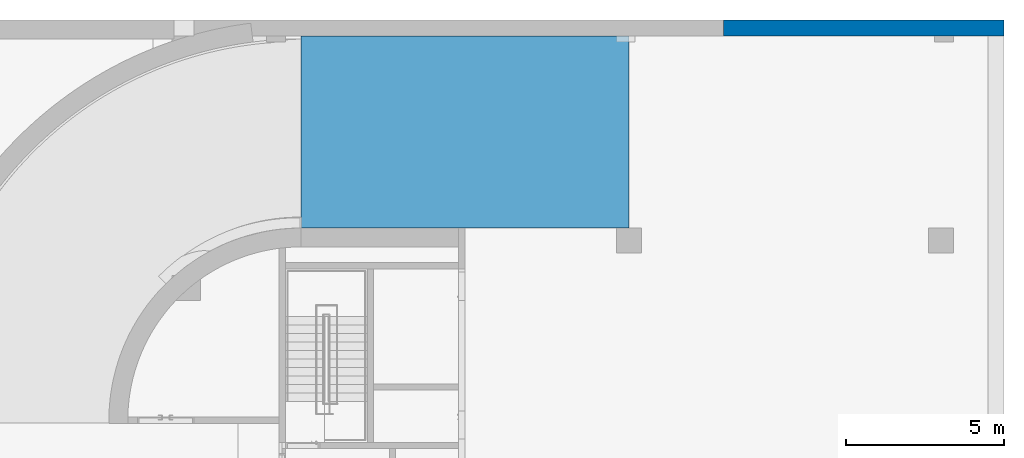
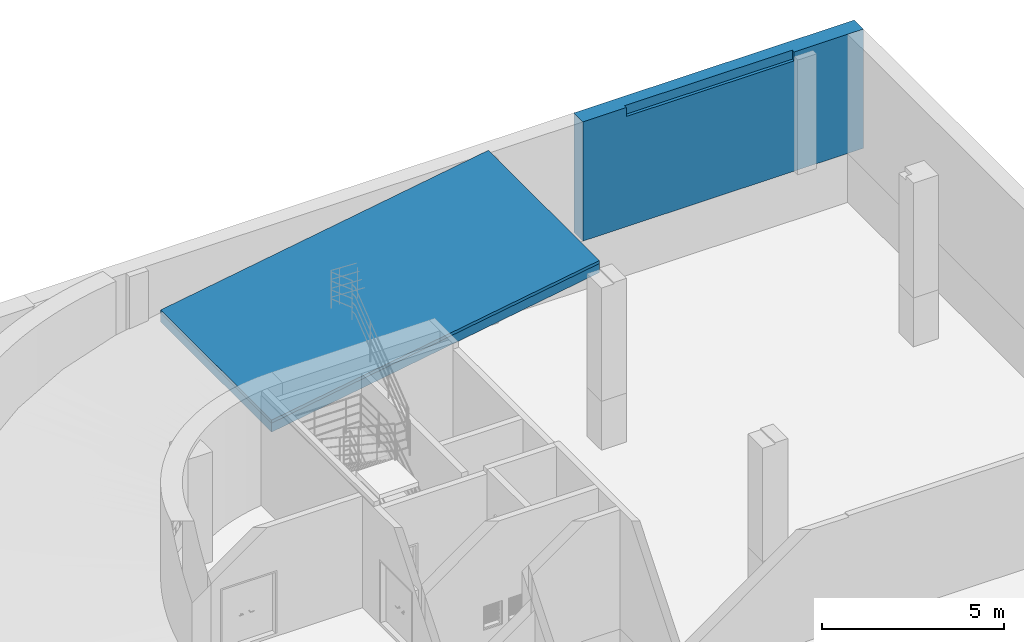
# One storey, part 14 of 30: 2 ramps, 1 wall.
"""IFC2X3 building model written with IfcOpenShell, lengths in millimetres."""

import ifcopenshell
import ifcopenshell.guid

model = None  # the IFC model being written
_history = None  # IfcOwnerHistory: only IFC2X3 demands one
_inside = {}  # id of a spatial element -> (the spatial element, [elements in it])
_under = {}  # id of a project, library or spatial element -> (it, [spatial elements below it])
_declared = {}  # id of a project -> (the project, [libraries it declares])
_typed = {}  # id of a type object -> (the type object, [elements of that type])
_made_of = {}  # id of a material, layer set ... -> (it, [elements and type objects made of it])


def new_model(schema):
    """Start an empty IFC model of exactly this schema.

    Asked for "IFC4X3", IfcOpenShell would pick the latest addendum, in which some entities
    have other attributes; the version numbers below select the first issue.
    IFC2X3 requires an IfcOwnerHistory on every rooted entity: one is made here for all.
    """
    global model, _history
    if schema == "IFC4X3":
        model = ifcopenshell.file(schema_version=(4, 3, 0, 0))
    else:
        model = ifcopenshell.file(schema=schema)
    _inside.clear()
    _under.clear()
    _declared.clear()
    _typed.clear()
    _made_of.clear()
    _history = None
    if model.schema == "IFC2X3":
        org = make("IfcOrganization", Name="unknown")
        user = make(
            "IfcPersonAndOrganization",
            ThePerson=make("IfcPerson", FamilyName="unknown"),
            TheOrganization=org,
        )
        app = make(
            "IfcApplication",
            ApplicationDeveloper=org,
            Version="unknown",
            ApplicationFullName="unknown",
            ApplicationIdentifier="unknown",
        )
        _history = make(
            "IfcOwnerHistory",
            OwningUser=user,
            OwningApplication=app,
            ChangeAction="ADDED",
            CreationDate=0,
        )
    return model


def make(cls, **values):
    """One entity of the class cls with the attributes given. An attribute that is None is left unset."""
    return model.create_entity(
        cls, **{name: value for name, value in values.items() if value is not None}
    )


def entity(cls, *values):
    """Any entity or typed value of the class cls, its attributes in the order of the schema. None: left unset."""
    e = model.create_entity(cls)
    for i, value in enumerate(values):
        if value is not None:
            e[i] = value
    return e


def rooted(cls, **values):
    """An entity with a GlobalId (a new one), such as an element, a storey or a relation."""
    return make(cls, GlobalId=ifcopenshell.guid.new(), OwnerHistory=_history, **values)


def si_unit(unit_type, name, prefix=None):
    """IfcSIUnit, for example si_unit("LENGTHUNIT", "METRE", prefix="MILLI")."""
    return make("IfcSIUnit", UnitType=unit_type, Prefix=prefix, Name=name)


def converted_unit(unit_type, name, factor, base, dimensions=None, offset=None):
    """IfcConversionBasedUnit, such as the inch: factor (a typed value) times the base unit."""
    return make(
        "IfcConversionBasedUnit"
        if offset is None
        else "IfcConversionBasedUnitWithOffset",
        ConversionOffset=offset,
        Dimensions=None
        if dimensions is None
        else entity("IfcDimensionalExponents", *dimensions),
        UnitType=unit_type,
        Name=name,
        ConversionFactor=make(
            "IfcMeasureWithUnit", ValueComponent=factor, UnitComponent=base
        ),
    )


def derived_unit(unit_type, elements):
    """IfcDerivedUnit: a product of units, each with its exponent."""
    return make(
        "IfcDerivedUnit",
        Elements=[
            make("IfcDerivedUnitElement", Unit=unit, Exponent=power)
            for unit, power in elements
        ],
        UnitType=unit_type,
    )


def assignment(units):
    """IfcUnitAssignment: the units of a project."""
    return None if units is None else make("IfcUnitAssignment", Units=units)


def point(xyz):
    """IfcCartesianPoint."""
    return None if xyz is None else make("IfcCartesianPoint", Coordinates=xyz)


def direction(xyz):
    """IfcDirection."""
    return None if xyz is None else make("IfcDirection", DirectionRatios=xyz)


def frame(location, z_axis=None, x_axis=None):
    """IfcAxis2Placement3D, a coordinate frame: its origin and axes. An axis left out is left unset."""
    return make(
        "IfcAxis2Placement3D",
        Location=point(location),
        Axis=direction(z_axis),
        RefDirection=direction(x_axis),
    )


def frame_2d(location, x_axis=None):
    """IfcAxis2Placement2D, a coordinate frame in the plane: its origin and x axis."""
    return make(
        "IfcAxis2Placement2D", Location=point(location), RefDirection=direction(x_axis)
    )


def origin():
    """The frame at (0, 0, 0) with its axes left unset."""
    return frame((0.0, 0.0, 0.0))


def place(relative_to, where):
    """IfcLocalPlacement: puts the frame where relative to a parent placement (None: the world)."""
    return make(
        "IfcLocalPlacement", PlacementRelTo=relative_to, RelativePlacement=where
    )


def context(
    kind, dimensions, precision=None, world=None, true_north=None, identifier=None
):
    """IfcGeometricRepresentationContext, for example the 3D "Model" context."""
    return make(
        "IfcGeometricRepresentationContext",
        ContextIdentifier=identifier,
        ContextType=kind,
        CoordinateSpaceDimension=dimensions,
        Precision=precision,
        WorldCoordinateSystem=world,
        TrueNorth=true_north,
    )


def subcontext(parent, identifier, kind, view, scale=None):
    """IfcGeometricRepresentationSubContext, for example "Body" below "Model"."""
    return make(
        "IfcGeometricRepresentationSubContext",
        ContextIdentifier=identifier,
        ContextType=kind,
        ParentContext=parent,
        TargetScale=scale,
        TargetView=view,
    )


def project(units=None, contexts=None):
    """IfcProject with its units and contexts."""
    return rooted(
        "IfcProject",
        Name="project",
        RepresentationContexts=contexts,
        UnitsInContext=assignment(units),
    )


def spatial(cls, under=None, at=None, **own):
    """A site, building, storey or space (cls), placed at a placement, below another one or the project."""
    s = rooted(cls, ObjectPlacement=at, **own)
    if under is not None:
        _under.setdefault(under.id(), (under, []))[1].append(s)
    return s


def profile(cls, at=None, kind="AREA", **sizes):
    """A parametric profile (cls). Its sizes go by their IFC names, for example OverallWidth=200.0."""
    return make(cls, ProfileType=kind, Position=at, **sizes)


def rectangle(**sizes):
    """IfcRectangleProfileDef."""
    return profile("IfcRectangleProfileDef", **sizes)


def extrude(swept, where, along, depth):
    """IfcExtrudedAreaSolid: the profile swept, set in the frame where, extruded along a direction by depth."""
    return make(
        "IfcExtrudedAreaSolid",
        SweptArea=swept,
        Position=where,
        ExtrudedDirection=direction(along),
        Depth=depth,
    )


def clip(a, b, op="DIFFERENCE"):
    """IfcBooleanClippingResult: the solid a cut by the half space b."""
    return make(
        "IfcBooleanClippingResult", Operator=op, FirstOperand=a, SecondOperand=b
    )


def halfspace(plane, agree):
    """IfcHalfSpaceSolid: all space on one side of the plane z = 0 of the frame plane."""
    return make(
        "IfcHalfSpaceSolid",
        BaseSurface=make("IfcPlane", Position=plane),
        AgreementFlag=agree,
    )


def faces_of(points, faces, orient=None, outer=None):
    """IfcFace entities. A face is a list of loops; a loop is a list of indices into points, from 0.

    orient and outer hold one flag for each loop. By default every Orientation is true, the
    first loop of a face is its IfcFaceOuterBound and the others are IfcFaceBound.
    """
    made = []
    for i, loops in enumerate(faces):
        bounds = []
        for j, loop in enumerate(loops):
            is_outer = j == 0 if outer is None else outer[i][j]
            bounds.append(
                make(
                    "IfcFaceOuterBound" if is_outer else "IfcFaceBound",
                    Bound=make("IfcPolyLoop", Polygon=[points[k] for k in loop]),
                    Orientation=True if orient is None else orient[i][j],
                )
            )
        made.append(make("IfcFace", Bounds=bounds))
    return made


def faceted_brep(points, faces, orient=None, outer=None, voids=None):
    """IfcFacetedBrep: a solid bounded by flat faces; with voids (closed shells), ...WithVoids."""
    shared = [point(p) for p in points]
    hull = make("IfcClosedShell", CfsFaces=faces_of(shared, faces, orient, outer))
    if voids is None:
        return make("IfcFacetedBrep", Outer=hull)
    return make(
        "IfcFacetedBrepWithVoids",
        Outer=hull,
        Voids=[
            make(cls, CfsFaces=faces_of(shared, fs, o, b)) for cls, fs, o, b in voids
        ],
    )


def shape(context_of_items, identifier, shape_type, items):
    """IfcShapeRepresentation: the items that make up one representation, for example the "Body"."""
    return make(
        "IfcShapeRepresentation",
        ContextOfItems=context_of_items,
        RepresentationIdentifier=identifier,
        RepresentationType=shape_type,
        Items=items,
    )


def material(Name=None, Category=None):
    """IfcMaterial."""
    return make("IfcMaterial", Name=Name, Category=Category)


def layer(
    of_material, thickness, ventilated=None, Name=None, Category=None, Priority=None
):
    """IfcMaterialLayer: one layer of a wall or slab, of a material (None: an air gap)."""
    return make(
        "IfcMaterialLayer",
        Material=of_material,
        LayerThickness=thickness,
        IsVentilated=ventilated,
        Name=Name,
        Category=Category,
        Priority=Priority,
    )


def layer_set(layers, Name=None):
    """IfcMaterialLayerSet."""
    return make("IfcMaterialLayerSet", MaterialLayers=layers, LayerSetName=Name)


def layer_usage(for_layer_set, set_direction, sense, offset, extent=None):
    """IfcMaterialLayerSetUsage: how a layer set lies in its element."""
    return make(
        "IfcMaterialLayerSetUsage",
        ForLayerSet=for_layer_set,
        LayerSetDirection=set_direction,
        DirectionSense=sense,
        OffsetFromReferenceLine=offset,
        ReferenceExtent=extent,
    )


def made_of(thing, what):
    """Note that an element or type object is made of a material, layer set ...; save() writes the relation."""
    if what is not None:
        _made_of.setdefault(what.id(), (what, []))[1].append(thing)
    return thing


def type_object(cls, material=None, **own):
    """A type object (cls), such as IfcWallType, which elements share."""
    return made_of(rooted(cls, **own), material)


def element(
    cls,
    number,
    at=None,
    inside=None,
    cuts=None,
    type_object=None,
    material=None,
    context=None,
    identifier="Body",
    shape_type=None,
    held_by="IfcProductDefinitionShape",
    body=None,
    shapes=None,
    **own,
):
    """One element of the class cls, such as IfcWall. Its Tag is "e" and its number.

    at: its placement. inside: the storey or other place that contains it. cuts: it is an
    opening in that element (IfcRelVoidsElement). A single representation is given by context,
    identifier, shape_type and body (its items); several are given by shapes. held_by: the class
    of the entity that holds the representations. save() writes the other relations.
    """
    e = rooted(cls, Tag="e%d" % number, ObjectPlacement=at, **own)
    if body is not None:
        shapes = [shape(context, identifier, shape_type, body)]
    if shapes is not None:
        e.Representation = make(held_by, Representations=shapes)
    if inside is not None:
        _inside.setdefault(inside.id(), (inside, []))[1].append(e)
    if cuts is not None:
        rooted(
            "IfcRelVoidsElement", RelatingBuildingElement=cuts, RelatedOpeningElement=e
        )
    if type_object is not None:
        _typed.setdefault(type_object.id(), (type_object, []))[1].append(e)
    return made_of(e, material)


def aggregate(whole, parts):
    """IfcRelAggregates: a whole, such as a stair, and the parts it consists of."""
    return rooted("IfcRelAggregates", RelatingObject=whole, RelatedObjects=parts)


def save(model, path):
    """Write the relations noted so far, then the file.

    IfcRelAggregates (storeys below a building ...), IfcRelContainedInSpatialStructure (elements
    in a storey), IfcRelDefinesByType, IfcRelAssociatesMaterial and IfcRelDeclares: one each for
    every whole, place, type object, material and project.
    """
    for whole, parts in _under.values():
        aggregate(whole, parts)
    for where, things in _inside.values():
        rooted(
            "IfcRelContainedInSpatialStructure",
            RelatedElements=things,
            RelatingStructure=where,
        )
    for kind, things in _typed.values():
        rooted("IfcRelDefinesByType", RelatedObjects=things, RelatingType=kind)
    for what, things in _made_of.values():
        rooted("IfcRelAssociatesMaterial", RelatedObjects=things, RelatingMaterial=what)
    for by, libraries in _declared.values():
        rooted("IfcRelDeclares", RelatingContext=by, RelatedDefinitions=libraries)
    model.write(path)


model = new_model("IFC2X3")

# Units and contexts
model_context = context("Model", 3, precision=0.01, world=origin(), true_north=direction((6.123031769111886e-17, 1.0)))
body_context = subcontext(model_context, "Body", "Model", "MODEL_VIEW")
ifc_project = project(units=[si_unit("LENGTHUNIT", "METRE", prefix="MILLI"), si_unit("AREAUNIT", "SQUARE_METRE"), si_unit("VOLUMEUNIT", "CUBIC_METRE"), converted_unit("PLANEANGLEUNIT", "DEGREE", entity("IfcRatioMeasure", 0.017453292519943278), si_unit("PLANEANGLEUNIT", "RADIAN"), dimensions=[0, 0, 0, 0, 0, 0, 0]), si_unit("MASSUNIT", "GRAM", prefix="KILO"), derived_unit("MASSDENSITYUNIT", [(si_unit("MASSUNIT", "GRAM", prefix="KILO"), 1), (si_unit("LENGTHUNIT", "METRE"), -3)]), derived_unit("MOMENTOFINERTIAUNIT", [(si_unit("LENGTHUNIT", "METRE"), 4)]), si_unit("TIMEUNIT", "SECOND"), si_unit("FREQUENCYUNIT", "HERTZ"), si_unit("THERMODYNAMICTEMPERATUREUNIT", "DEGREE_CELSIUS"), derived_unit("THERMALTRANSMITTANCEUNIT", [(si_unit("MASSUNIT", "GRAM", prefix="KILO"), 1), (si_unit("THERMODYNAMICTEMPERATUREUNIT", "KELVIN"), -1), (si_unit("TIMEUNIT", "SECOND"), -3)]), derived_unit("VOLUMETRICFLOWRATEUNIT", [(si_unit("LENGTHUNIT", "METRE"), 3), (si_unit("TIMEUNIT", "SECOND"), -1)]), derived_unit("MASSFLOWRATEUNIT", [(si_unit("MASSUNIT", "GRAM", prefix="KILO"), 1), (si_unit("TIMEUNIT", "SECOND"), -1)]), derived_unit("ROTATIONALFREQUENCYUNIT", [(si_unit("TIMEUNIT", "SECOND"), -1)]), si_unit("ELECTRICCURRENTUNIT", "AMPERE"), si_unit("ELECTRICVOLTAGEUNIT", "VOLT"), si_unit("POWERUNIT", "WATT"), si_unit("FORCEUNIT", "NEWTON", prefix="KILO"), si_unit("ILLUMINANCEUNIT", "LUX"), si_unit("LUMINOUSFLUXUNIT", "LUMEN"), si_unit("LUMINOUSINTENSITYUNIT", "CANDELA"), derived_unit("USERDEFINED", [(si_unit("MASSUNIT", "GRAM", prefix="KILO"), -1), (si_unit("LENGTHUNIT", "METRE"), -2), (si_unit("TIMEUNIT", "SECOND"), 3), (si_unit("LUMINOUSFLUXUNIT", "LUMEN"), 1)]), derived_unit("SOUNDPOWERUNIT", [(si_unit("MASSUNIT", "GRAM", prefix="KILO"), 1), (si_unit("LENGTHUNIT", "METRE"), 2), (si_unit("TIMEUNIT", "SECOND"), -3)]), derived_unit("SOUNDPRESSUREUNIT", [(si_unit("MASSUNIT", "GRAM", prefix="KILO"), 1), (si_unit("LENGTHUNIT", "METRE"), -1), (si_unit("TIMEUNIT", "SECOND"), -2)]), derived_unit("LINEARVELOCITYUNIT", [(si_unit("LENGTHUNIT", "METRE"), 1), (si_unit("TIMEUNIT", "SECOND"), -1)]), si_unit("PRESSUREUNIT", "PASCAL"), derived_unit("USERDEFINED", [(si_unit("LENGTHUNIT", "METRE"), -2), (si_unit("MASSUNIT", "GRAM", prefix="KILO"), 1), (si_unit("TIMEUNIT", "SECOND"), -2)]), derived_unit("LINEARFORCEUNIT", [(si_unit("MASSUNIT", "GRAM", prefix="KILO"), 1), (si_unit("LENGTHUNIT", "METRE"), 1), (si_unit("TIMEUNIT", "SECOND"), -2), (si_unit("LENGTHUNIT", "METRE"), -1)]), derived_unit("PLANARFORCEUNIT", [(si_unit("MASSUNIT", "GRAM", prefix="KILO"), 1), (si_unit("LENGTHUNIT", "METRE"), 1), (si_unit("TIMEUNIT", "SECOND"), -2), (si_unit("LENGTHUNIT", "METRE"), -2)])], contexts=[model_context])

# Site, building, storey
site_placement = place(None, frame((-14167.972527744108, -657.2125860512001, 0.0)))
site = spatial("IfcSite", under=ifc_project, at=site_placement, Name="Default", CompositionType="ELEMENT")
building_placement = place(site_placement, origin())
building = spatial("IfcBuilding", under=site, at=building_placement, Name="Sample Building", CompositionType="ELEMENT")
storey_placement = place(building_placement, frame((0.0, 0.0, -10100.0)))
storey = spatial("IfcBuildingStorey", under=building, at=storey_placement, Name="지하2층", CompositionType="ELEMENT", Elevation=-10100.0)

# Wall
ifc_material_1 = material(Name="KBIMS-콘크리트")
ifc_layer_1 = layer(ifc_material_1, 500.00000000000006)
ifc_layer_set_1 = layer_set([ifc_layer_1], Name="기본 벽:WA111-철근콘크리트구조 벽 500mm_BW3")
wall_type = type_object("IfcWallType", Name="기본 벽:WA111-철근콘크리트구조 벽 500mm_BW3", PredefinedType="STANDARD", material=ifc_layer_set_1)
wall_placement = place(storey_placement, frame((44167.97249113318, 35607.17762439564, 0.0)))
element("IfcWall", 1, at=wall_placement, inside=storey, type_object=wall_type, Name="기본 벽:WA111-철근콘크리트구조 벽 500mm_BW3", ObjectType="기본 벽:WA111-철근콘크리트구조 벽 500mm_BW3", context=body_context, shape_type="Brep", body=[
    faceted_brep([(0.0, -250.0, 0.0), (6699.982644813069, -250.0, 0.0), (7299.982644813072, -250.0, 0.0), (8400.0, -250.0, 0.0), (8900.0, -250.0, 0.0), (8900.0, -250.0, 4000.0), (8400.0, -250.0, 4000.0), (6900.007823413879, -250.0, 4000.0), (6700.007823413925, -250.0, 4000.0), (6700.007823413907, -250.0, 3700.0), (1381.5998177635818, -250.0, 3700.0), (1381.5998177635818, -250.0, 4000.0), (0.0, -250.0, 4000.0), (8900.0, 250.0, 0.0), (0.0, 250.0, 0.0), (0.0, 250.0, 4000.0), (8900.0, 250.0, 4000.0), (1381.5998177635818, -149.9653164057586, 4000.0), (6700.007823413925, -149.9653164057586, 4000.0), (6700.007823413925, -149.9653164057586, 3700.0), (1381.5998177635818, -149.9653164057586, 3700.0)], [[[0, 1, 2, 3, 4, 5, 6, 7, 8, 9, 10, 11, 12]], [[13, 14, 15, 16]], [[4, 3, 2, 1, 0, 14, 13]], [[16, 15, 12, 11, 17, 18, 8, 7, 6, 5]], [[0, 12, 15, 14]], [[5, 4, 13, 16]], [[19, 20, 10, 9]], [[20, 19, 18, 17]], [[18, 19, 9, 8]], [[20, 17, 11, 10]]]),
])

# Ramps
ifc_material_2 = material(Name="SL671-에폭시페인트 바닥 (내산, 로울러칠, 3회)")
ifc_layer_2 = layer(ifc_material_2, 3.0)
ifc_material_3 = material(Name="SL582-무근콘크리트 바닥 97mm")
ifc_layer_3 = layer(ifc_material_3, 95.00000000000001)
ifc_material_4 = material(Name="SL789-와이어매쉬 #8 150x150")
ifc_layer_4 = layer(ifc_material_4, 1.0)
ifc_material_5 = material(Name="SL555-쇠흙손마감 바닥 (콘크리트면)")
ifc_layer_5 = layer(ifc_material_5, 1.0)
ifc_layer_set_2 = layer_set([ifc_layer_2, ifc_layer_3, ifc_layer_4, ifc_layer_5], Name="바닥:A1-12-09B-쇠흙손마감, 와이어매쉬(#8 150x150), 무근콘크리트, 에폭시페인트 (100mm)")
ifc_layer_usage_1 = layer_usage(ifc_layer_set_2, "AXIS3", "POSITIVE", 0.0)
ramp_1_placement = place(storey_placement, origin())
element("IfcRamp", 2, at=ramp_1_placement, inside=storey, material=ifc_layer_usage_1, Name="바닥:A1-12-09B-쇠흙손마감, 와이어매쉬(#8 150x150), 무근콘크리트, 에폭시페인트 (100mm)", ObjectType="바닥:A1-12-09B-쇠흙손마감, 와이어매쉬(#8 150x150), 무근콘크리트, 에폭시페인트 (100mm)", ShapeType="STRAIGHT_RUN_RAMP", context=body_context, shape_type="SweptSolid", body=[
    clip(clip(extrude(rectangle(XDim=10540.870743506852, YDim=6099.965316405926, at=frame_2d((0.0, -4.547473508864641e-12), x_axis=(0.0, 1.0))), frame((35967.77043822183, 32307.194966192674, 3242.499999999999), z_axis=(0.1627000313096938, 0.0, -0.986675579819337), x_axis=(0.0, 1.0, 0.0)), (0.0, -0.1627000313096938, 0.986675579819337), 102.71910835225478), halfspace(frame((41167.98031454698, 32407.21231833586, 3998.649564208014), z_axis=(0.1627000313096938, 0.0, -0.986675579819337), x_axis=(-0.986675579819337, 0.0, -0.1627000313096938)), False)), halfspace(frame((41167.98031454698, 32407.21231833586, 4100.0), z_axis=(-0.1627000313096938, 0.0, 0.986675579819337), x_axis=(0.986675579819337, 0.0, 0.1627000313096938)), False)),
])
ifc_layer_6 = layer(ifc_material_1, 300.0)
ifc_layer_set_3 = layer_set([ifc_layer_6], Name="바닥:RP111-철근콘크리트구조 램프 (직선형) 300mm")
ifc_layer_usage_2 = layer_usage(ifc_layer_set_3, "AXIS3", "POSITIVE", 0.0)
ramp_2_placement = place(storey_placement, origin())
element("IfcRamp", 3, at=ramp_2_placement, inside=storey, material=ifc_layer_usage_2, Name="바닥:RP111-철근콘크리트구조 램프 (직선형) 300mm", ObjectType="바닥:RP111-철근콘크리트구조 램프 (직선형) 300mm", ShapeType="STRAIGHT_RUN_RAMP", context=body_context, shape_type="SweptSolid", body=[
    clip(clip(extrude(rectangle(XDim=10540.870743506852, YDim=6099.9999999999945, at=frame_2d((-2.0463630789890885e-12, -4.547473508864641e-12), x_axis=(0.0, 1.0))), frame((35967.77043822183, 32307.21230798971, 3142.5000000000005), z_axis=(0.1627000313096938, 0.0, -0.986675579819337), x_axis=(0.0, 1.0, 0.0)), (0.0, -0.1627000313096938, 0.986675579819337), 308.1573250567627), halfspace(frame((41167.98031454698, 32407.21231833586, 3695.948692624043), z_axis=(0.1627000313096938, 0.0, -0.986675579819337), x_axis=(-0.986675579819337, 0.0, -0.1627000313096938)), False)), halfspace(frame((41167.98031454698, 32407.21231833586, 4000.0), z_axis=(-0.1627000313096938, 0.0, 0.986675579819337), x_axis=(0.986675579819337, 0.0, 0.1627000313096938)), False)),
])

save(model, "model.ifc")
